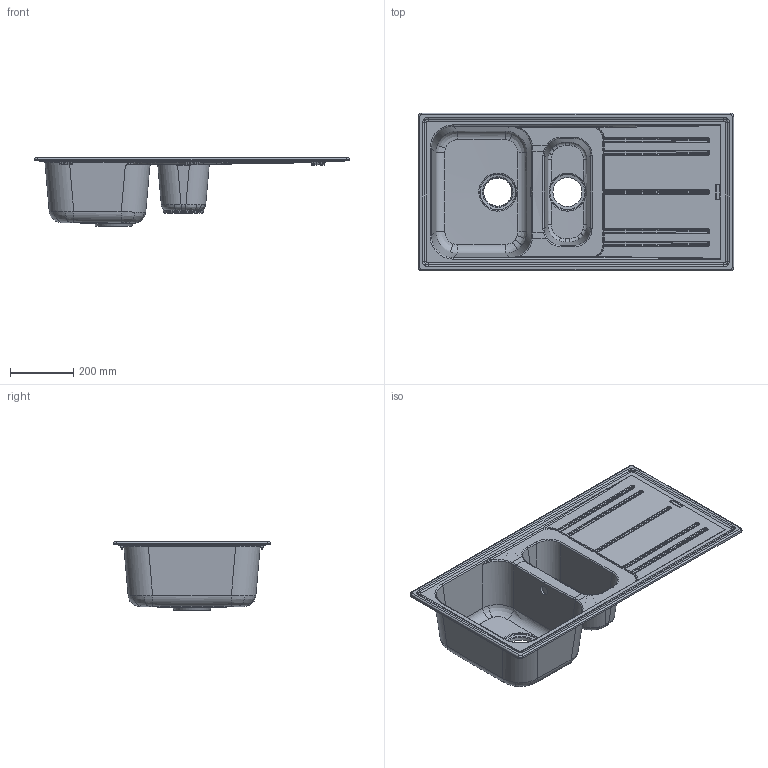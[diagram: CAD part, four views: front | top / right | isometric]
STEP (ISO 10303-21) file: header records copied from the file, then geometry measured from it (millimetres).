
FILE_DESCRIPTION((''),'1');
FILE_NAME('C:/Users/linop/Desktop/LZ102A2.stp','2018-03-08T14:16:58',(''),(''),'Spatial Interop R20 SP1','Kubotek KeyCreator V9.0.3 (16864)',' ');
FILE_SCHEMA(('CONFIG_CONTROL_DESIGN'));
Length unit declared in the file: millimetre
Products named in the file (1): 1
Bounding box: 1000 x 500 x 216.6 mm (x, y, z)
Volume: 6692649.2 mm3; surface area: 1661688.6 mm2
Topology: 1 solids, 1 shells, 918 faces, 2617 edges, 1645 vertices
Faces by surface type: bspline 516, cylinder 237, plane 92, sphere 40, torus 26, cone 7
Full cylindrical faces by diameter (mm): 2.5 x12, 30 x1, 35 x2, 92 x1
Entity records: 45181 total; most frequent: CARTESIAN_POINT 27653, ORIENTED_EDGE 5044, EDGE_CURVE 2522, DIRECTION 1809, VERTEX_POINT 1638, B_SPLINE_CURVE_WITH_KNOTS 1348, EDGE_LOOP 972, ADVANCED_FACE 918
